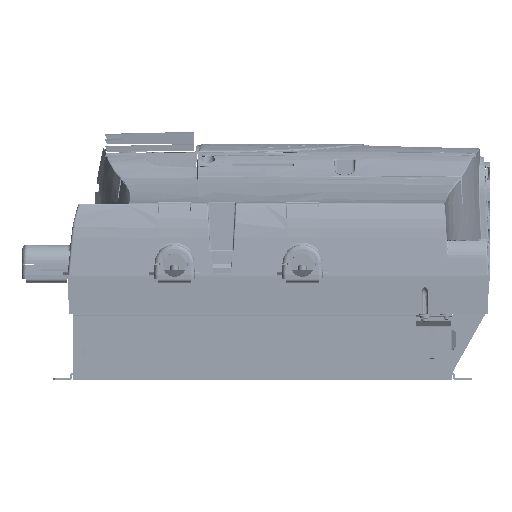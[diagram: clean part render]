
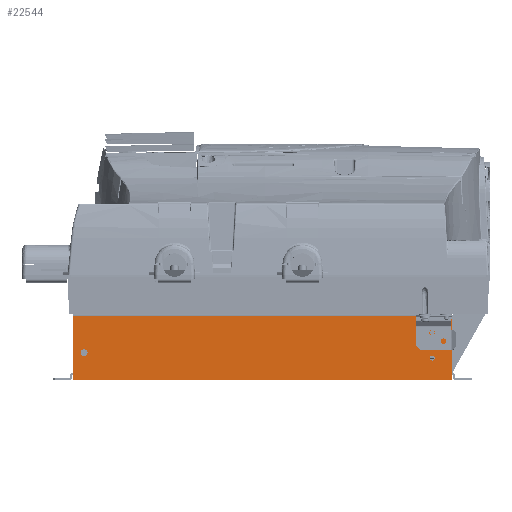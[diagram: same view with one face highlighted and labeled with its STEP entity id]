
A CAD part, left-side view. The second image highlights one B-rep face of the part: STEP entity #22544.
In plain terms, the highlighted planar face has unit normal (-1, 0, 0).
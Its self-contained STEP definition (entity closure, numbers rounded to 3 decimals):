
#17752=DIRECTION('',(0.,0.,-1.));
#17753=VECTOR('',#17752,60.);
#17754=CARTESIAN_POINT('',(-98.5,179.8,-1.5));
#17755=LINE('',#17754,#17753);
#18506=DIRECTION('',(0.,1.,0.));
#18507=VECTOR('',#18506,355.);
#18508=CARTESIAN_POINT('',(-98.5,-175.2,-1.5));
#18509=LINE('',#18508,#18507);
#18510=DIRECTION('',(0.,0.,-1.));
#18511=VECTOR('',#18510,60.);
#18512=CARTESIAN_POINT('',(-98.5,-175.2,-1.5));
#18513=LINE('',#18512,#18511);
#18514=CARTESIAN_POINT('',(-98.5,-156.7,-41.));
#18515=DIRECTION('',(-1.,0.,0.));
#18516=DIRECTION('',(0.,1.,0.));
#18517=AXIS2_PLACEMENT_3D('',#18514,#18515,#18516);
#18519=CARTESIAN_POINT('',(-98.5,-156.7,-41.));
#18520=DIRECTION('',(-1.,0.,0.));
#18521=DIRECTION('',(0.,-1.,0.));
#18522=AXIS2_PLACEMENT_3D('',#18519,#18520,#18521);
#18524=CARTESIAN_POINT('',(-98.5,-154.4,-17.));
#18525=CARTESIAN_POINT('',(-98.5,-154.406,-17.319));
#18526=CARTESIAN_POINT('',(-98.5,-154.52,-17.903));
#18527=CARTESIAN_POINT('',(-98.5,-155.034,-18.67));
#18528=CARTESIAN_POINT('',(-98.5,-155.787,-19.175));
#18529=CARTESIAN_POINT('',(-98.5,-156.691,-19.361));
#18530=CARTESIAN_POINT('',(-98.5,-157.594,-19.183));
#18531=CARTESIAN_POINT('',(-98.5,-158.356,-18.683));
#18532=CARTESIAN_POINT('',(-98.5,-158.88,-17.907));
#18533=CARTESIAN_POINT('',(-98.5,-158.995,-17.32));
#18534=CARTESIAN_POINT('',(-98.5,-159.,-17.));
#18536=CARTESIAN_POINT('',(-98.5,-159.,-17.));
#18537=CARTESIAN_POINT('',(-98.5,-158.994,-16.681));
#18538=CARTESIAN_POINT('',(-98.5,-158.88,-16.097));
#18539=CARTESIAN_POINT('',(-98.5,-158.366,-15.33));
#18540=CARTESIAN_POINT('',(-98.5,-157.613,-14.825));
#18541=CARTESIAN_POINT('',(-98.5,-156.709,-14.639));
#18542=CARTESIAN_POINT('',(-98.5,-155.806,-14.817));
#18543=CARTESIAN_POINT('',(-98.5,-155.044,-15.317));
#18544=CARTESIAN_POINT('',(-98.5,-154.52,-16.093));
#18545=CARTESIAN_POINT('',(-98.5,-154.405,-16.68));
#18546=CARTESIAN_POINT('',(-98.5,-154.4,-17.));
#18548=CARTESIAN_POINT('',(-98.5,169.8,-36.));
#18549=DIRECTION('',(-1.,0.,0.));
#18550=DIRECTION('',(0.,-1.,0.));
#18551=AXIS2_PLACEMENT_3D('',#18548,#18549,#18550);
#18553=CARTESIAN_POINT('',(-98.5,169.8,-36.));
#18554=DIRECTION('',(-1.,0.,0.));
#18555=DIRECTION('',(0.,1.,0.));
#18556=AXIS2_PLACEMENT_3D('',#18553,#18554,#18555);
#18562=DIRECTION('',(0.,-1.,0.));
#18563=VECTOR('',#18562,355.);
#18564=CARTESIAN_POINT('',(-98.5,179.8,-61.5));
#18565=LINE('',#18564,#18563);
#20521=VERTEX_POINT('',#18524);
#20522=VERTEX_POINT('',#18534);
#20874=CARTESIAN_POINT('',(-98.5,-175.2,-61.5));
#20875=VERTEX_POINT('',#20874);
#20876=CARTESIAN_POINT('',(-98.5,-175.2,-1.5));
#20877=VERTEX_POINT('',#20876);
#21006=CARTESIAN_POINT('',(-98.5,179.8,-1.5));
#21007=VERTEX_POINT('',#21006);
#21008=CARTESIAN_POINT('',(-98.5,179.8,-61.5));
#21009=VERTEX_POINT('',#21008);
#21179=CARTESIAN_POINT('',(-98.5,-154.4,-41.));
#21180=CARTESIAN_POINT('',(-98.5,-159.,-41.));
#21181=VERTEX_POINT('',#21179);
#21182=VERTEX_POINT('',#21180);
#21183=CARTESIAN_POINT('',(-98.5,166.55,-36.));
#21184=CARTESIAN_POINT('',(-98.5,173.05,-36.));
#21185=VERTEX_POINT('',#21183);
#21186=VERTEX_POINT('',#21184);
#22514=CARTESIAN_POINT('',(-98.5,-175.2,-62.));
#22515=DIRECTION('',(-1.,0.,0.));
#22516=DIRECTION('',(0.,0.,1.));
#22517=AXIS2_PLACEMENT_3D('',#22514,#22515,#22516);
#22518=PLANE('',#22517);
#22519=ORIENTED_EDGE('',*,*,#22509,.F.);
#22520=ORIENTED_EDGE('',*,*,#21449,.T.);
#22522=ORIENTED_EDGE('',*,*,#22521,.F.);
#22523=ORIENTED_EDGE('',*,*,#21811,.F.);
#22524=EDGE_LOOP('',(#22519,#22520,#22522,#22523));
#22525=FACE_OUTER_BOUND('',#22524,.F.);
#22527=ORIENTED_EDGE('',*,*,#22526,.T.);
#22529=ORIENTED_EDGE('',*,*,#22528,.T.);
#22530=EDGE_LOOP('',(#22527,#22529));
#22531=FACE_BOUND('',#22530,.F.);
#22533=ORIENTED_EDGE('',*,*,#22532,.T.);
#22535=ORIENTED_EDGE('',*,*,#22534,.T.);
#22536=EDGE_LOOP('',(#22533,#22535));
#22537=FACE_BOUND('',#22536,.F.);
#22539=ORIENTED_EDGE('',*,*,#22538,.T.);
#22541=ORIENTED_EDGE('',*,*,#22540,.T.);
#22542=EDGE_LOOP('',(#22539,#22541));
#22543=FACE_BOUND('',#22542,.F.);
#22544=ADVANCED_FACE('',(#22525,#22531,#22537,#22543),#22518,.T.);
#18518=CIRCLE('',#18517,2.3);
#18523=CIRCLE('',#18522,2.3);
#18535=B_SPLINE_CURVE_WITH_KNOTS('',3,(#18524,#18525,#18526,#18527,#18528,
#18529,#18530,#18531,#18532,#18533,#18534),.UNSPECIFIED.,.F.,.F.,(4,1,1,1,1,1,1,
1,4),(0.,0.125,0.25,0.375,0.5,0.625,0.75,0.875,1.),
.UNSPECIFIED.);
#18547=B_SPLINE_CURVE_WITH_KNOTS('',3,(#18536,#18537,#18538,#18539,#18540,
#18541,#18542,#18543,#18544,#18545,#18546),.UNSPECIFIED.,.F.,.F.,(4,1,1,1,1,1,1,
1,4),(0.,0.125,0.25,0.375,0.5,0.625,0.75,0.875,1.),
.UNSPECIFIED.);
#18552=CIRCLE('',#18551,3.25);
#18557=CIRCLE('',#18556,3.25);
#21449=EDGE_CURVE('',#20877,#20875,#18513,.T.);
#21811=EDGE_CURVE('',#21007,#21009,#17755,.T.);
#22509=EDGE_CURVE('',#20877,#21007,#18509,.T.);
#22521=EDGE_CURVE('',#21009,#20875,#18565,.T.);
#22526=EDGE_CURVE('',#21181,#21182,#18518,.T.);
#22528=EDGE_CURVE('',#21182,#21181,#18523,.T.);
#22532=EDGE_CURVE('',#20521,#20522,#18535,.T.);
#22534=EDGE_CURVE('',#20522,#20521,#18547,.T.);
#22538=EDGE_CURVE('',#21185,#21186,#18552,.T.);
#22540=EDGE_CURVE('',#21186,#21185,#18557,.T.);
